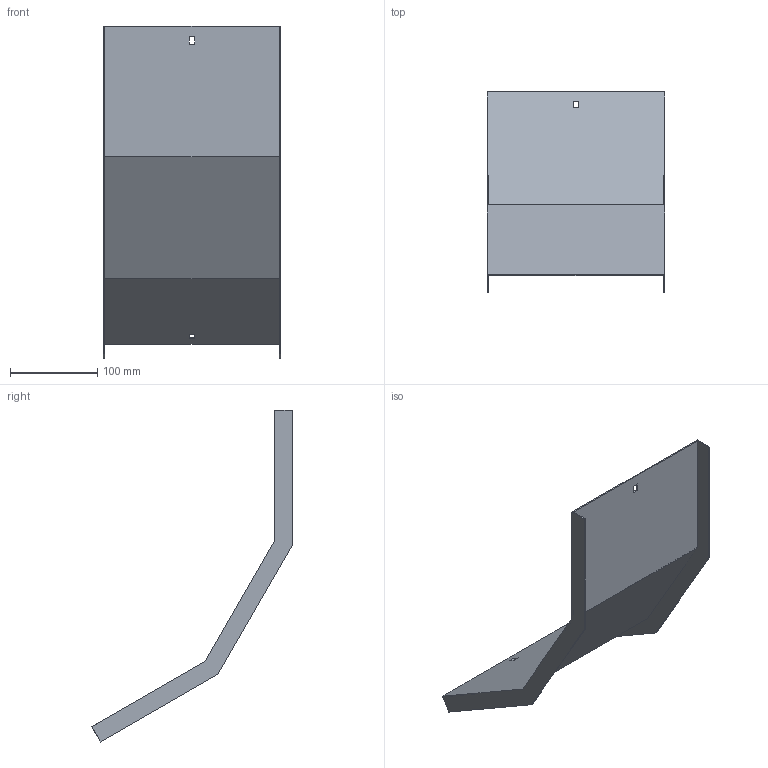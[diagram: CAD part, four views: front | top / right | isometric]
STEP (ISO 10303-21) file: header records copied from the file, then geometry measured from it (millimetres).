
FILE_DESCRIPTION (( 'STEP AP214' ), '1' );
FILE_NAME ('A2X40N3R200X.step', '2025-04-02T08:34:52', ( '' ), ( '' ), 'SwSTEP 2.0', 'SolidWorks 2023', '' );
FILE_SCHEMA (( 'AUTOMOTIVE_DESIGN' ));
Length unit declared in the file: millimetre
Products named in the file (1): A2X40N3R200X
Bounding box: 203 x 229.74 x 380.61 mm (x, y, z)
Volume: 166164.7 mm3; surface area: 223806.7 mm2
Topology: 1 solids, 1 shells, 26 faces, 72 edges, 48 vertices
Faces by surface type: plane 26
Entity records: 847 total; most frequent: CARTESIAN_POINT 147, ORIENTED_EDGE 144, DIRECTION 126, LINE 72, VECTOR 72, EDGE_CURVE 72, VERTEX_POINT 48, EDGE_LOOP 30
